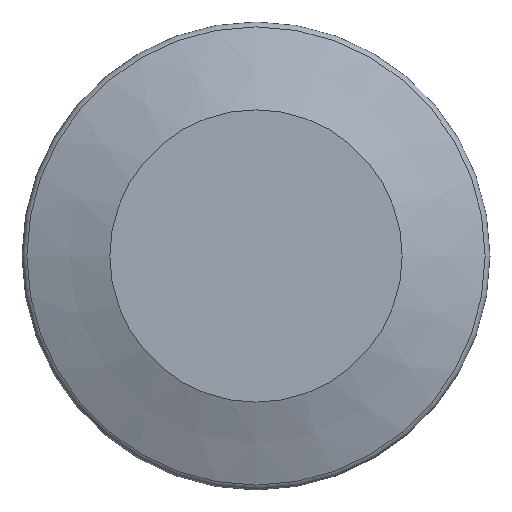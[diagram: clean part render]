
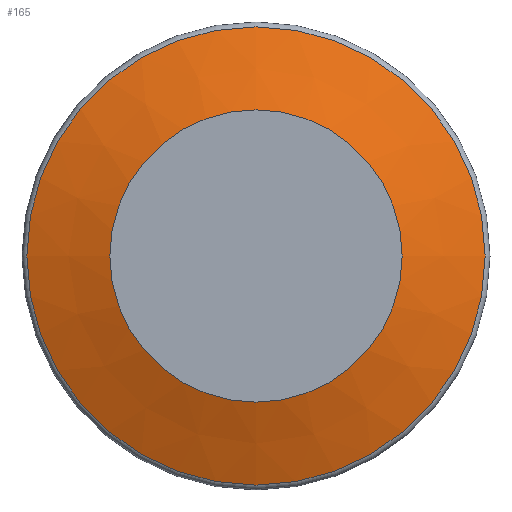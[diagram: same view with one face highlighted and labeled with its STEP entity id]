
A CAD part, left-side view. The second image highlights one B-rep face of the part: STEP entity #165.
In plain terms, the highlighted conical face has half-angle 70 degrees and reference radius 25.25 mm.
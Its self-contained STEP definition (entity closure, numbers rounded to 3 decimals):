
#19=LINE('',#311,#23);
#23=VECTOR('',#256,25.25);
#27=CONICAL_SURFACE('',#210,25.25,1.222);
#33=FACE_OUTER_BOUND('',#44,.T.);
#44=EDGE_LOOP('',(#118,#119,#120,#121));
#56=CIRCLE('',#200,24.724);
#64=CIRCLE('',#211,15.771);
#72=VERTEX_POINT('',#292);
#78=VERTEX_POINT('',#310);
#86=EDGE_CURVE('',#72,#72,#56,.T.);
#94=EDGE_CURVE('',#72,#78,#19,.T.);
#95=EDGE_CURVE('',#78,#78,#64,.T.);
#118=ORIENTED_EDGE('',*,*,#86,.T.);
#119=ORIENTED_EDGE('',*,*,#94,.T.);
#120=ORIENTED_EDGE('',*,*,#95,.F.);
#121=ORIENTED_EDGE('',*,*,#94,.F.);
#165=ADVANCED_FACE('',(#33),#27,.T.);
#200=AXIS2_PLACEMENT_3D('',#294,#234,#235);
#210=AXIS2_PLACEMENT_3D('',#309,#254,#255);
#211=AXIS2_PLACEMENT_3D('',#312,#257,#258);
#234=DIRECTION('center_axis',(-1.,0.,0.));
#235=DIRECTION('ref_axis',(0.,-1.,0.));
#254=DIRECTION('center_axis',(1.,0.,0.));
#255=DIRECTION('ref_axis',(0.,1.,0.));
#256=DIRECTION('',(-0.342,0.94,0.));
#257=DIRECTION('center_axis',(-1.,0.,0.));
#258=DIRECTION('ref_axis',(0.,-1.,0.));
#292=CARTESIAN_POINT('',(-4.11,-25.208,0.));
#294=CARTESIAN_POINT('Origin',(-4.11,-0.484,0.));
#309=CARTESIAN_POINT('Origin',(-3.919,-0.484,0.));
#310=CARTESIAN_POINT('',(-7.369,-16.255,0.));
#311=CARTESIAN_POINT('',(-3.919,-25.734,0.));
#312=CARTESIAN_POINT('Origin',(-7.369,-0.484,0.));
